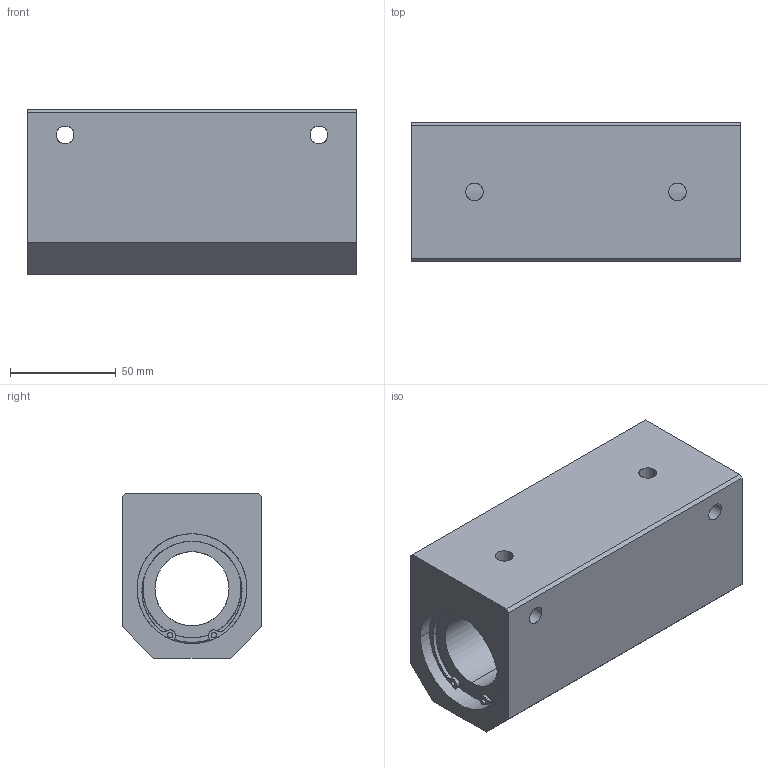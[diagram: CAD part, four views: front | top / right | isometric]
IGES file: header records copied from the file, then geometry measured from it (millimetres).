
Global section: file name: No Iges File Name specified; native system: AutoDesk Inventor R11.0; preprocessor: AutoDesk Inventor Iges Exporter R11.0; author: No Author specified; organization: No Organization specified; date: 20111024.132959; units: millimetre
Bounding box: 156 x 66 x 78 mm (x, y, z)
Surface area: 80924.7 mm2 (no closed solid volume)
Topology: 0 solids, 0 shells, 122 faces, 944 edges, 944 vertices
Faces by surface type: bspline 122
